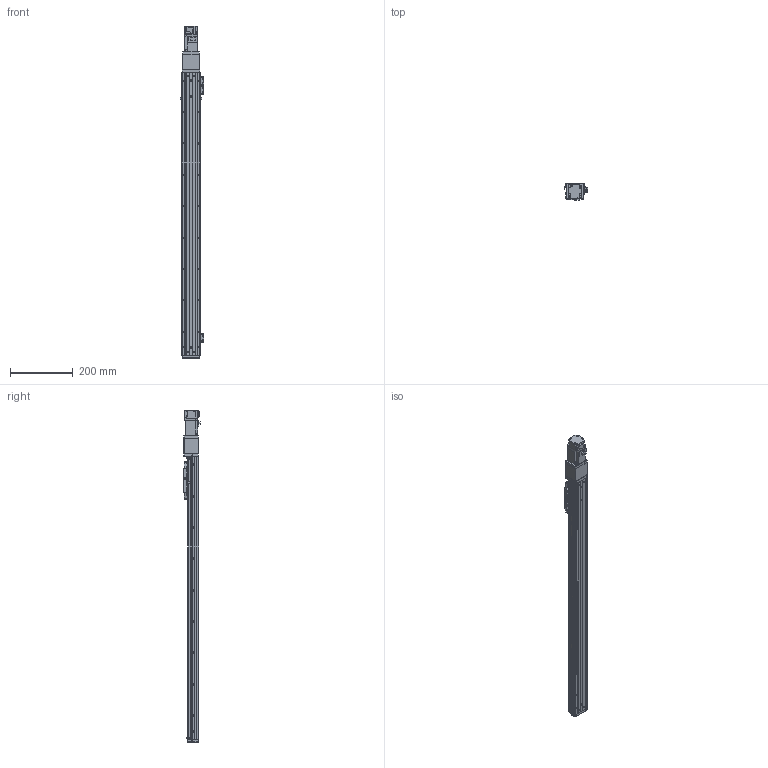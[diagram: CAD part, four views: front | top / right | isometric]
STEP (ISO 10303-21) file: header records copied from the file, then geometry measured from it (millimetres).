
FILE_DESCRIPTION (( 'STEP AP203' ), '1' );
FILE_NAME ('CTHA50-750-BC-M10-C4L.step', '2022-03-19T05:57:39', ( '微软用户' ), ( '微软中国' ), 'SwSTEP 2.0', 'SolidWorks 2020', '' );
FILE_SCHEMA (( 'CONFIG_CONTROL_DESIGN' ));
Length unit declared in the file: millimetre
Products named in the file (20): CTHA50-030; EE_SX911P_R; CTHA50-027; CTHA50-031; GBT77-2000 M3×3; CTHA50-006-2_CTHA60-006-2; CTHA50-750-BC-M10-C4L; GBT 70.1-M3℅6; CTHA50-013; KTHA50-001_900; CTHA60-017; HG-KR13（三菱）; KTHA50-004; GBT 70.1-M4×12; GBT 70.3-M3℅6; KTHA50-005; CTHA60-016; CTHA50-002; GB¨uT 70.2-M3¡Á6_M3¡Á6; CTHA60-021
Assembly tree (59 placements, depth 2):
  CTHA50-750-BC-M10-C4L
    KTHA50-001_900
    KTHA50-004
    KTHA50-005
    GB¨uT 70.2-M3¡Á6_M3¡Á6  x10
    EE_SX911P_R  x3
    GBT77-2000 M3×3  x6
    GBT 70.1-M3℅6  x6
    CTHA60-017  x3
    GBT 70.1-M4×12  x10
    CTHA60-016  x2
    CTHA60-021  x2
    CTHA50-027
    CTHA50-006-2_CTHA60-006-2
    CTHA50-013
    HG-KR13（三菱）
    GBT 70.3-M3℅6  x6
    CTHA50-002
    CTHA50-030  x2
    CTHA50-031
Bounding box: 74.12 x 53.3 x 1058.6 mm (x, y, z)
Volume: 1671395 mm3; surface area: 440220.4 mm2
Topology: 61 solids, 61 shells, 2496 faces, 5962 edges, 3654 vertices
Faces by surface type: plane 1438, cylinder 568, cone 370, torus 96, sphere 24
Entity records: 41928 total; most frequent: CARTESIAN_POINT 6787, DIRECTION 6740, ORIENTED_EDGE 6492, EDGE_CURVE 3246, LINE 2372, VECTOR 2372, AXIS2_PLACEMENT_3D 2184, VERTEX_POINT 2047
